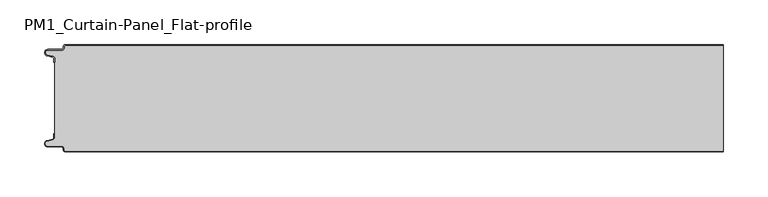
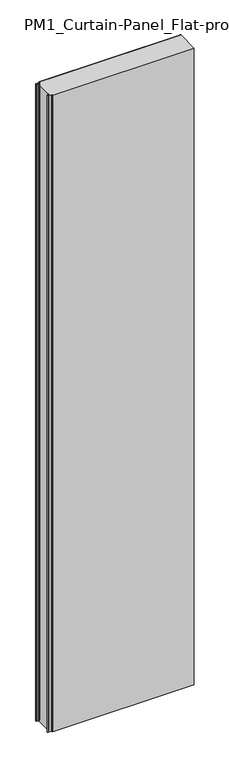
"""IFC4 building model written with IfcOpenShell, lengths in millimetres: plate geometry, PM1_Curtain-Panel_Flat-profile : ACH_PM1_Stone-wool-Panel_120M."""

from ifc_helpers import new_model, si_unit, point, frame_2d, origin, origin_with_axes, place, context, project, spatial, polyline, circle_curve, trimmed, segment, composite_curve, outline, extrude, source, transform, mapped, element, save


def pm1_curtain_panel_flat_profile_bbe97bc2(model_context):
    return source(origin(), model_context, "Body", "SweptSolid", [
        extrude(outline(composite_curve([segment(trimmed(circle_curve(frame_2d((-362.4, -2.0)), 1.2), [point((-362.4, -0.8))], [point((-363.6, -2.0))], True, "CARTESIAN"), True, "CONTINUOUS"), segment(polyline([(-363.6, -2.0), (-363.6, -3.4)]), True, "CONTINUOUS"), segment(trimmed(circle_curve(frame_2d((-366.4, -3.4)), 2.8), [point((-363.6, -3.4))], [point((-366.4, -6.2))], False, "CARTESIAN"), True, "CONTINUOUS"), segment(polyline([(-366.4, -6.2), (-381.9, -6.2)]), True, "CONTINUOUS"), segment(trimmed(circle_curve(frame_2d((-381.9, -9.0)), 2.8), [point((-381.9, -6.2))], [point((-382.529863, -11.7282362))], True, "CARTESIAN"), True, "CONTINUOUS"), segment(polyline([(-382.529863, -11.7282362), (-376.370137, -13.150321)]), True, "CONTINUOUS"), segment(trimmed(circle_curve(frame_2d((-377.0, -15.878557)), 2.8), [point((-376.370137, -13.150321))], [point((-374.2, -15.878557))], False, "CARTESIAN"), True, "CONTINUOUS"), segment(polyline([(-374.2, -15.878557), (-374.2, -20.0), (-375.0, -20.0), (-375.0, -15.878557)]), True, "CONTINUOUS"), segment(trimmed(circle_curve(frame_2d((-377.0, -15.878557)), 2.0), [point((-375.0, -15.878557))], [point((-376.5500978, -13.9298169))], True, "CARTESIAN"), True, "CONTINUOUS"), segment(polyline([(-376.5500978, -13.9298169), (-382.7098239, -12.507732)]), True, "CONTINUOUS"), segment(trimmed(circle_curve(frame_2d((-381.9, -9.0)), 3.6), [point((-382.7098239, -12.507732))], [point((-381.9, -5.4))], False, "CARTESIAN"), True, "CONTINUOUS"), segment(polyline([(-381.9, -5.4), (-366.4, -5.4)]), True, "CONTINUOUS"), segment(trimmed(circle_curve(frame_2d((-366.4, -3.4)), 2.0), [point((-366.4, -5.4))], [point((-364.4, -3.4))], True, "CARTESIAN"), True, "CONTINUOUS"), segment(polyline([(-364.4, -3.4), (-364.4, -2.0)]), True, "CONTINUOUS"), segment(trimmed(circle_curve(frame_2d((-362.4, -2.0)), 2.0), [point((-364.4, -2.0))], [point((-362.4, 0.0))], False, "CARTESIAN"), True, "CONTINUOUS"), segment(polyline([(-362.4, 0.0), (375.0, 0.0), (375.0, -0.8), (-362.4, -0.8)]), True, "CONTINUOUS")], self_intersect=False)), origin_with_axes(), (0.0, 0.0, 1.0), 3500.0),
        extrude(outline(composite_curve([segment(polyline([(-374.2, -104.1214426), (-374.2, -15.8785573)]), True, "CONTINUOUS"), segment(trimmed(circle_curve(frame_2d((-377.0, -15.8785573)), 2.8), [point((-374.2, -15.8785573))], [point((-376.370137, -13.1503212))], True, "CARTESIAN"), True, "CONTINUOUS"), segment(polyline([(-376.370137, -13.1503212), (-382.5298631, -11.7282362)]), True, "CONTINUOUS"), segment(trimmed(circle_curve(frame_2d((-381.9, -9.0)), 2.8), [point((-382.5298631, -11.7282362))], [point((-381.9, -6.2))], False, "CARTESIAN"), True, "CONTINUOUS"), segment(polyline([(-381.9, -6.2), (-366.4000001, -6.2)]), True, "CONTINUOUS"), segment(trimmed(circle_curve(frame_2d((-366.4000001, -3.4)), 2.8), [point((-366.4000001, -6.2))], [point((-363.6000001, -3.4))], True, "CARTESIAN"), True, "CONTINUOUS"), segment(polyline([(-363.6000001, -3.4), (-363.6000001, -2.0)]), True, "CONTINUOUS"), segment(trimmed(circle_curve(frame_2d((-362.4000001, -2.0)), 1.2), [point((-363.6000001, -2.0))], [point((-362.4000001, -0.8))], False, "CARTESIAN"), True, "CONTINUOUS"), segment(polyline([(-362.4000001, -0.8), (375.0, -0.8), (375.0, -119.2), (-362.4000001, -119.2)]), True, "CONTINUOUS"), segment(trimmed(circle_curve(frame_2d((-362.4000001, -118.0)), 1.2), [point((-362.4000001, -119.2))], [point((-363.6000001, -118.0))], False, "CARTESIAN"), True, "CONTINUOUS"), segment(polyline([(-363.6000001, -118.0), (-363.6000001, -116.6)]), True, "CONTINUOUS"), segment(trimmed(circle_curve(frame_2d((-366.4000001, -116.6)), 2.8), [point((-363.6000001, -116.6))], [point((-366.4000001, -113.8))], True, "CARTESIAN"), True, "CONTINUOUS"), segment(polyline([(-366.4000001, -113.8), (-381.9, -113.8)]), True, "CONTINUOUS"), segment(trimmed(circle_curve(frame_2d((-381.9, -111.0)), 2.8), [point((-381.9, -113.8))], [point((-382.5298631, -108.2717638))], False, "CARTESIAN"), True, "CONTINUOUS"), segment(polyline([(-382.5298631, -108.2717638), (-376.370137, -106.8496788)]), True, "CONTINUOUS"), segment(trimmed(circle_curve(frame_2d((-377.0, -104.1214426)), 2.8), [point((-376.370137, -106.8496788))], [point((-374.2, -104.1214426))], True, "CARTESIAN"), True, "CONTINUOUS")], self_intersect=False)), origin_with_axes(), (0.0, 0.0, 1.0), 3500.0),
        extrude(outline(composite_curve([segment(trimmed(circle_curve(frame_2d((-362.4, -118.0)), 2.0), [point((-362.4, -120.0))], [point((-364.4, -118.0))], False, "CARTESIAN"), True, "CONTINUOUS"), segment(polyline([(-364.4, -118.0), (-364.4, -116.6)]), True, "CONTINUOUS"), segment(trimmed(circle_curve(frame_2d((-366.4, -116.6)), 2.0), [point((-364.4, -116.6))], [point((-366.4, -114.6))], True, "CARTESIAN"), True, "CONTINUOUS"), segment(polyline([(-366.4, -114.6), (-381.9, -114.6)]), True, "CONTINUOUS"), segment(trimmed(circle_curve(frame_2d((-381.9, -111.0)), 3.6), [point((-381.9, -114.6))], [point((-382.7098239, -107.4922678))], False, "CARTESIAN"), True, "CONTINUOUS"), segment(polyline([(-382.7098239, -107.4922678), (-376.5500979, -106.070183)]), True, "CONTINUOUS"), segment(trimmed(circle_curve(frame_2d((-377.0, -104.121443)), 2.0), [point((-376.5500979, -106.070183))], [point((-375.0, -104.121443))], True, "CARTESIAN"), True, "CONTINUOUS"), segment(polyline([(-375.0, -104.121443), (-375.0, -100.0), (-374.2, -100.0), (-374.2, -104.121443)]), True, "CONTINUOUS"), segment(trimmed(circle_curve(frame_2d((-377.0, -104.121443)), 2.8), [point((-374.2, -104.121443))], [point((-376.370137, -106.8496792))], False, "CARTESIAN"), True, "CONTINUOUS"), segment(polyline([(-376.370137, -106.8496792), (-382.529863, -108.271764)]), True, "CONTINUOUS"), segment(trimmed(circle_curve(frame_2d((-381.9, -111.0)), 2.8), [point((-382.529863, -108.271764))], [point((-381.9, -113.8))], True, "CARTESIAN"), True, "CONTINUOUS"), segment(polyline([(-381.9, -113.8), (-366.4, -113.8)]), True, "CONTINUOUS"), segment(trimmed(circle_curve(frame_2d((-366.4, -116.6)), 2.8), [point((-366.4, -113.8))], [point((-363.6, -116.6))], False, "CARTESIAN"), True, "CONTINUOUS"), segment(polyline([(-363.6, -116.6), (-363.6, -118.0)]), True, "CONTINUOUS"), segment(trimmed(circle_curve(frame_2d((-362.4, -118.0)), 1.2), [point((-363.6, -118.0))], [point((-362.4, -119.2))], True, "CARTESIAN"), True, "CONTINUOUS"), segment(polyline([(-362.4, -119.2), (375.0, -119.2), (375.0, -120.0), (-362.4, -120.0)]), True, "CONTINUOUS")], self_intersect=False)), origin_with_axes(), (0.0, 0.0, 1.0), 3500.0),
    ])


if __name__ == "__main__":
    model = new_model("IFC4")
    model_context = context("Model", 3, world=origin())
    ifc_project = project(units=[si_unit("LENGTHUNIT", "METRE", prefix="MILLI")], contexts=[model_context])
    site = spatial("IfcSite", under=ifc_project)
    building = spatial("IfcBuilding", under=site)
    placement = place(None, origin())
    pm1_curtain_panel_flat_profile_shape = pm1_curtain_panel_flat_profile_bbe97bc2(model_context)
    element("IfcPlate", 1, ObjectType="PM1_Curtain-Panel_Flat-profile : ACH_PM1_Stone-wool-Panel_120M", at=placement, inside=building, context=model_context, shape_type="MappedRepresentation", body=[
        mapped(pm1_curtain_panel_flat_profile_shape, transform((0.0, 0.0, 0.0), x_axis=(1.0, 0.0, 0.0), y_axis=(0.0, 1.0, 0.0), z_axis=(0.0, 0.0, 1.0))),
    ])
    save(model, "model.ifc")
